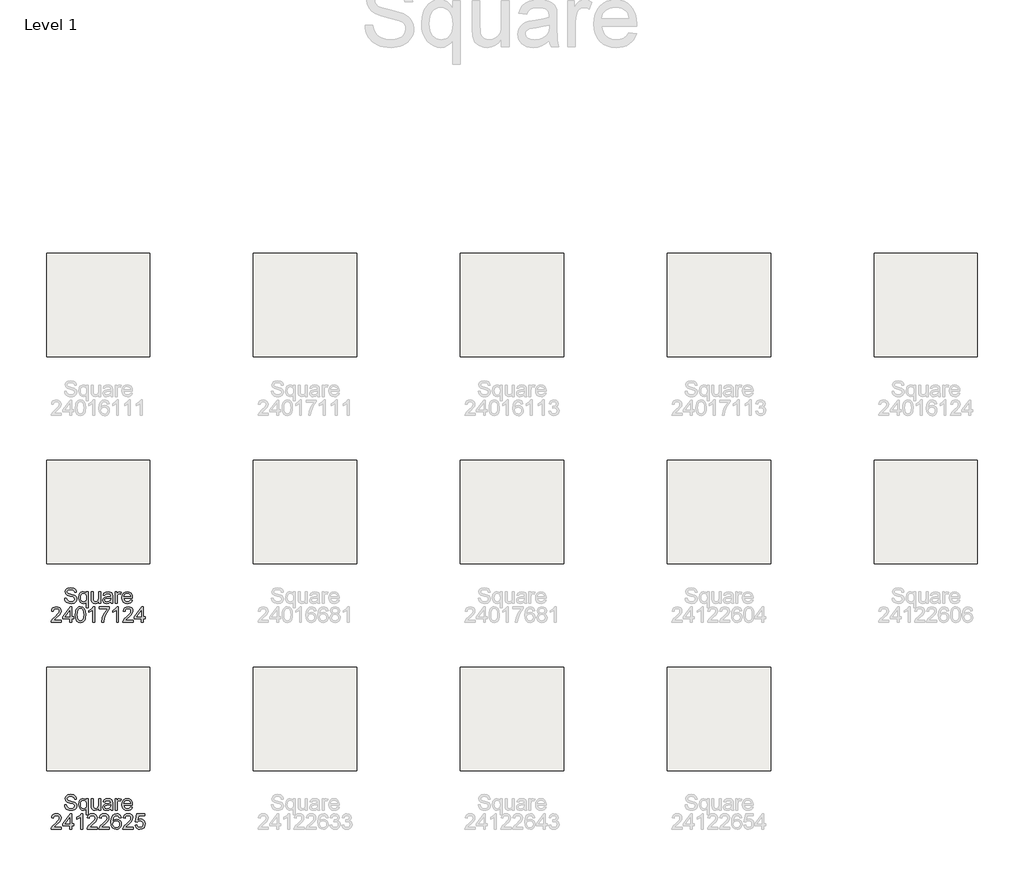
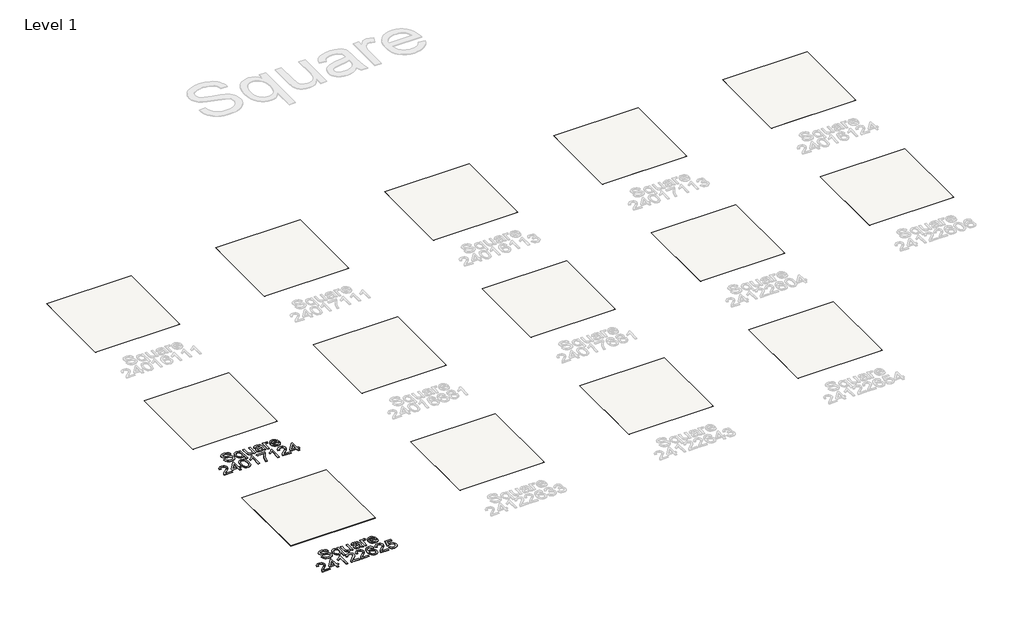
# One storey, part 1 of 6: 14 coverings, 2 proxies.
"""IFC4 building model written with IfcOpenShell, lengths in millimetres."""

import ifcopenshell
import ifcopenshell.guid

model = None  # the IFC model being written
_history = None  # IfcOwnerHistory: only IFC2X3 demands one
_inside = {}  # id of a spatial element -> (the spatial element, [elements in it])
_under = {}  # id of a project, library or spatial element -> (it, [spatial elements below it])
_declared = {}  # id of a project -> (the project, [libraries it declares])
_typed = {}  # id of a type object -> (the type object, [elements of that type])
_made_of = {}  # id of a material, layer set ... -> (it, [elements and type objects made of it])


def new_model(schema):
    """Start an empty IFC model of exactly this schema.

    Asked for "IFC4X3", IfcOpenShell would pick the latest addendum, in which some entities
    have other attributes; the version numbers below select the first issue.
    IFC2X3 requires an IfcOwnerHistory on every rooted entity: one is made here for all.
    """
    global model, _history
    if schema == "IFC4X3":
        model = ifcopenshell.file(schema_version=(4, 3, 0, 0))
    else:
        model = ifcopenshell.file(schema=schema)
    _inside.clear()
    _under.clear()
    _declared.clear()
    _typed.clear()
    _made_of.clear()
    _history = None
    if model.schema == "IFC2X3":
        org = make("IfcOrganization", Name="unknown")
        user = make(
            "IfcPersonAndOrganization",
            ThePerson=make("IfcPerson", FamilyName="unknown"),
            TheOrganization=org,
        )
        app = make(
            "IfcApplication",
            ApplicationDeveloper=org,
            Version="unknown",
            ApplicationFullName="unknown",
            ApplicationIdentifier="unknown",
        )
        _history = make(
            "IfcOwnerHistory",
            OwningUser=user,
            OwningApplication=app,
            ChangeAction="ADDED",
            CreationDate=0,
        )
    return model


def make(cls, **values):
    """One entity of the class cls with the attributes given. An attribute that is None is left unset."""
    return model.create_entity(
        cls, **{name: value for name, value in values.items() if value is not None}
    )


def rooted(cls, **values):
    """An entity with a GlobalId (a new one), such as an element, a storey or a relation."""
    return make(cls, GlobalId=ifcopenshell.guid.new(), OwnerHistory=_history, **values)


def si_unit(unit_type, name, prefix=None):
    """IfcSIUnit, for example si_unit("LENGTHUNIT", "METRE", prefix="MILLI")."""
    return make("IfcSIUnit", UnitType=unit_type, Prefix=prefix, Name=name)


def assignment(units):
    """IfcUnitAssignment: the units of a project."""
    return None if units is None else make("IfcUnitAssignment", Units=units)


def point(xyz):
    """IfcCartesianPoint."""
    return None if xyz is None else make("IfcCartesianPoint", Coordinates=xyz)


def direction(xyz):
    """IfcDirection."""
    return None if xyz is None else make("IfcDirection", DirectionRatios=xyz)


def frame(location, z_axis=None, x_axis=None):
    """IfcAxis2Placement3D, a coordinate frame: its origin and axes. An axis left out is left unset."""
    return make(
        "IfcAxis2Placement3D",
        Location=point(location),
        Axis=direction(z_axis),
        RefDirection=direction(x_axis),
    )


def origin():
    """The frame at (0, 0, 0) with its axes left unset."""
    return frame((0.0, 0.0, 0.0))


def origin_with_axes():
    """The frame at (0, 0, 0) with the z axis (0, 0, 1) and the x axis (1, 0, 0) written out."""
    return frame((0.0, 0.0, 0.0), z_axis=(0.0, 0.0, 1.0), x_axis=(1.0, 0.0, 0.0))


def place(relative_to, where):
    """IfcLocalPlacement: puts the frame where relative to a parent placement (None: the world)."""
    return make(
        "IfcLocalPlacement", PlacementRelTo=relative_to, RelativePlacement=where
    )


def context(
    kind, dimensions, precision=None, world=None, true_north=None, identifier=None
):
    """IfcGeometricRepresentationContext, for example the 3D "Model" context."""
    return make(
        "IfcGeometricRepresentationContext",
        ContextIdentifier=identifier,
        ContextType=kind,
        CoordinateSpaceDimension=dimensions,
        Precision=precision,
        WorldCoordinateSystem=world,
        TrueNorth=true_north,
    )


def project(units=None, contexts=None):
    """IfcProject with its units and contexts."""
    return rooted(
        "IfcProject",
        Name="project",
        RepresentationContexts=contexts,
        UnitsInContext=assignment(units),
    )


def spatial(cls, under=None, at=None, **own):
    """A site, building, storey or space (cls), placed at a placement, below another one or the project."""
    s = rooted(cls, ObjectPlacement=at, **own)
    if under is not None:
        _under.setdefault(under.id(), (under, []))[1].append(s)
    return s


def polyline(points):
    """IfcPolyline through the points."""
    return make("IfcPolyline", Points=[point(p) for p in points])


def outline(outer, holes=None, kind="AREA"):
    """IfcArbitraryClosedProfileDef: a profile drawn as a closed curve; with holes, ...WithVoids."""
    if holes is None:
        return make("IfcArbitraryClosedProfileDef", ProfileType=kind, OuterCurve=outer)
    return make(
        "IfcArbitraryProfileDefWithVoids",
        ProfileType=kind,
        OuterCurve=outer,
        InnerCurves=holes,
    )


def extrude(swept, where, along, depth):
    """IfcExtrudedAreaSolid: the profile swept, set in the frame where, extruded along a direction by depth."""
    return make(
        "IfcExtrudedAreaSolid",
        SweptArea=swept,
        Position=where,
        ExtrudedDirection=direction(along),
        Depth=depth,
    )


def shape(context_of_items, identifier, shape_type, items):
    """IfcShapeRepresentation: the items that make up one representation, for example the "Body"."""
    return make(
        "IfcShapeRepresentation",
        ContextOfItems=context_of_items,
        RepresentationIdentifier=identifier,
        RepresentationType=shape_type,
        Items=items,
    )


def made_of(thing, what):
    """Note that an element or type object is made of a material, layer set ...; save() writes the relation."""
    if what is not None:
        _made_of.setdefault(what.id(), (what, []))[1].append(thing)
    return thing


def element(
    cls,
    number,
    at=None,
    inside=None,
    cuts=None,
    type_object=None,
    material=None,
    context=None,
    identifier="Body",
    shape_type=None,
    held_by="IfcProductDefinitionShape",
    body=None,
    shapes=None,
    **own,
):
    """One element of the class cls, such as IfcWall. Its Tag is "e" and its number.

    at: its placement. inside: the storey or other place that contains it. cuts: it is an
    opening in that element (IfcRelVoidsElement). A single representation is given by context,
    identifier, shape_type and body (its items); several are given by shapes. held_by: the class
    of the entity that holds the representations. save() writes the other relations.
    """
    e = rooted(cls, Tag="e%d" % number, ObjectPlacement=at, **own)
    if body is not None:
        shapes = [shape(context, identifier, shape_type, body)]
    if shapes is not None:
        e.Representation = make(held_by, Representations=shapes)
    if inside is not None:
        _inside.setdefault(inside.id(), (inside, []))[1].append(e)
    if cuts is not None:
        rooted(
            "IfcRelVoidsElement", RelatingBuildingElement=cuts, RelatedOpeningElement=e
        )
    if type_object is not None:
        _typed.setdefault(type_object.id(), (type_object, []))[1].append(e)
    return made_of(e, material)


def aggregate(whole, parts):
    """IfcRelAggregates: a whole, such as a stair, and the parts it consists of."""
    return rooted("IfcRelAggregates", RelatingObject=whole, RelatedObjects=parts)


def save(model, path):
    """Write the relations noted so far, then the file.

    IfcRelAggregates (storeys below a building ...), IfcRelContainedInSpatialStructure (elements
    in a storey), IfcRelDefinesByType, IfcRelAssociatesMaterial and IfcRelDeclares: one each for
    every whole, place, type object, material and project.
    """
    for whole, parts in _under.values():
        aggregate(whole, parts)
    for where, things in _inside.values():
        rooted(
            "IfcRelContainedInSpatialStructure",
            RelatedElements=things,
            RelatingStructure=where,
        )
    for kind, things in _typed.values():
        rooted("IfcRelDefinesByType", RelatedObjects=things, RelatingType=kind)
    for what, things in _made_of.values():
        rooted("IfcRelAssociatesMaterial", RelatedObjects=things, RelatingMaterial=what)
    for by, libraries in _declared.values():
        rooted("IfcRelDeclares", RelatingContext=by, RelatedDefinitions=libraries)
    model.write(path)


model = new_model("IFC4")

# Units and contexts
model_context = context("Model", 3, world=origin())
ifc_project = project(units=[si_unit("LENGTHUNIT", "METRE", prefix="MILLI")], contexts=[model_context])

# Site, building, storey
site = spatial("IfcSite", under=ifc_project)
building = spatial("IfcBuilding", under=site)
storey = spatial("IfcBuildingStorey", under=building, Name="Level 1", Elevation=0.0)

# Proxies
placement = place(None, origin())
element("IfcBuildingElementProxy", 1, Name="150mm Arial", ObjectType="150mm Arial", at=placement, inside=storey, context=model_context, shape_type="SweptSolid", body=[
    extrude(outline(polyline([(-4760.0314438, -1311.1477573), (-4741.1958857, -1311.1477573), (-4735.1258328, -1330.0017096), (-4720.3001884, -1341.9210862), (-4697.7122339, -1346.4644288), (-4678.0305471, -1343.0247322), (-4665.3202242, -1333.5701649), (-4661.1447635, -1320.9334184), (-4664.2717605, -1309.1795886), (-4677.0740539, -1300.6263322), (-4704.4996567, -1293.4342392), (-4734.0221868, -1284.1452189), (-4750.0434477, -1270.1289148), (-4755.3225543, -1251.4037213), (-4753.6900779, -1240.37186), (-4748.7926489, -1230.0849597), (-4740.7590258, -1221.3661564), (-4729.7179674, -1215.0385861), (-4701.795724, -1209.9066322), (-4671.9972824, -1215.2777094), (-4660.5745464, -1221.9087823), (-4652.1316547, -1231.059847), (-4646.7881687, -1242.1606862), (-4644.6636501, -1254.6410828), (-4663.4992083, -1254.6410828), (-4666.9572991, -1243.4022879), (-4674.1677862, -1235.2904899), (-4685.4341723, -1230.3792653), (-4701.05996, -1228.7421904), (-4717.0536297, -1230.3608712), (-4728.0257103, -1235.2169135), (-4734.3716747, -1242.3630213), (-4736.4869961, -1250.8518983), (-4734.987877, -1258.0899766), (-4730.4905196, -1263.9117091), (-4699.7355848, -1274.4331342), (-4666.4054761, -1283.8877015), (-4655.6679203, -1290.7211095), (-4648.1769232, -1299.1548043), (-4643.7761348, -1309.0968152), (-4642.3092054, -1320.4551718), (-4643.996864, -1332.0664473), (-4649.05984, -1342.987944), (-4657.2911996, -1352.387329), (-4668.4840093, -1359.4322692), (-4681.9438918, -1363.8330575), (-4696.9764699, -1365.299987), (-4715.4303504, -1363.7180944), (-4730.6192783, -1358.9724167), (-4742.7179974, -1351.0445597), (-4751.9012517, -1339.9161293), (-4757.7965607, -1326.3596778), (-4760.0314438, -1311.1477573)])), origin_with_axes(), (0.0, 0.0, 1.0), 5.0),
    extrude(outline(polyline([(-4548.1314146, -1405.3255481), (-4548.1314146, -1347.8623804), (-4560.0875795, -1360.3335801), (-4576.42154, -1365.299987), (-4594.3281962, -1361.3774452), (-4609.5677078, -1349.6098199), (-4619.9971624, -1331.0087865), (-4623.4736472, -1306.5860206), (-4617.9554173, -1276.7507908), (-4611.1955856, -1265.1441138), (-4601.9525505, -1256.7380102), (-4590.9620759, -1251.6336475), (-4578.9599258, -1249.9321933), (-4561.4487428, -1255.2112999), (-4548.1314146, -1271.0486198), (-4548.1314146, -1252.2866381), (-4529.2958565, -1252.2866381), (-4529.2958565, -1405.3255481), (-4548.1314146, -1405.3255481)]), holes=[polyline([(-4604.6380891, -1307.6160902), (-4602.5181691, -1324.6122383), (-4596.1584091, -1336.7523442), (-4586.837199, -1344.0364077), (-4575.8329289, -1346.4644288), (-4565.2885112, -1344.1559693), (-4556.316789, -1337.2305908), (-4550.1777582, -1325.5871256), (-4548.1314146, -1309.1244063), (-4550.2881228, -1291.5258514), (-4556.7582474, -1278.9029004), (-4566.1346398, -1271.3015387), (-4577.0101512, -1268.7677515), (-4587.6833276, -1271.1267948), (-4596.5998675, -1278.2039246), (-4602.6285337, -1290.2750526), (-4604.6380891, -1307.6160902)])]), origin_with_axes(), (0.0, 0.0, 1.0), 5.0),
    extrude(outline(polyline([(-4430.4091762, -1362.9455422), (-4430.4091762, -1343.9260431), (-4445.1612442, -1359.956501), (-4464.4014725, -1365.299987), (-4482.1149906, -1361.5475906), (-4494.3286728, -1352.1298116), (-4499.9388732, -1338.2606604), (-4501.0425192, -1320.7494774), (-4501.0425192, -1252.2866381), (-4482.2069611, -1252.2866381), (-4482.2069611, -1311.8835213), (-4481.0665269, -1331.0869614), (-4473.6169165, -1342.3625446), (-4459.5822184, -1346.4644288), (-4443.8552631, -1342.2705741), (-4433.4625967, -1330.8478382), (-4430.4091762, -1309.8601703), (-4430.4091762, -1252.2866381), (-4411.573618, -1252.2866381), (-4411.573618, -1362.9455422), (-4430.4091762, -1362.9455422)])), origin_with_axes(), (0.0, 0.0, 1.0), 5.0),
    extrude(outline(polyline([(-4315.0413825, -1348.8188736), (-4333.3067235, -1361.5843788), (-4353.485051, -1365.299987), (-4369.2258018, -1363.0651039), (-4380.8370773, -1356.3604545), (-4387.9969806, -1346.1793203), (-4390.3836151, -1333.5149826), (-4386.7783715, -1318.6157618), (-4377.3054102, -1307.8000312), (-4364.1168406, -1301.6196136), (-4347.8196682, -1298.7869223), (-4315.1517471, -1292.3121992), (-4315.0413825, -1288.1183444), (-4316.3381665, -1279.7122408), (-4320.2285186, -1274.212405), (-4328.9289278, -1270.1289148), (-4341.0506395, -1268.7677515), (-4360.1069269, -1272.3913891), (-4369.1936122, -1285.2488648), (-4388.0291703, -1282.8944201), (-4379.8805841, -1264.5003203), (-4363.4730471, -1253.7213779), (-4338.6226184, -1249.9321933), (-4315.7955406, -1253.2799195), (-4302.9012766, -1261.6860231), (-4297.1255293, -1274.4699224), (-4296.2058243, -1290.9510358), (-4296.2058243, -1314.3851189), (-4295.2493311, -1347.1082223), (-4291.4969348, -1362.9455422), (-4310.3324929, -1362.9455422), (-4315.0413825, -1348.8188736)]), holes=[polyline([(-4315.0413825, -1311.1477573), (-4345.4284353, -1316.9235046), (-4361.6336372, -1319.9769252), (-4368.972883, -1324.9433321), (-4371.5480569, -1332.1906074), (-4365.9378565, -1342.3809387), (-4349.4751372, -1346.4644288), (-4330.4188499, -1341.9578744), (-4318.1315912, -1331.0501732), (-4315.1517471, -1316.4820462), (-4315.0413825, -1311.1477573)])]), origin_with_axes(), (0.0, 0.0, 1.0), 5.0),
    extrude(outline(polyline([(-4270.3069319, -1362.9455422), (-4270.3069319, -1252.2866381), (-4253.8258185, -1252.2866381), (-4253.8258185, -1268.6573869), (-4242.127171, -1253.5742251), (-4230.3549472, -1249.9321933), (-4211.4458126, -1255.7447288), (-4217.7365947, -1272.6305124), (-4230.9803466, -1268.7677515), (-4241.6305303, -1272.4833596), (-4248.4179531, -1282.7840555), (-4251.4713737, -1304.7833988), (-4251.4713737, -1362.9455422), (-4270.3069319, -1362.9455422)])), origin_with_axes(), (0.0, 0.0, 1.0), 5.0),
    extrude(outline(polyline([(-4122.1976406, -1329.9833155), (-4103.7299644, -1332.3377602), (-4110.38403, -1346.2528967), (-4121.0020241, -1356.6547601), (-4135.3448234, -1363.1386803), (-4153.1733046, -1365.299987), (-4175.2738155, -1361.5705833), (-4192.2791607, -1350.3823721), (-4203.1224825, -1332.4619204), (-4206.7369231, -1308.5357951), (-4203.0856943, -1283.804928), (-4192.1320079, -1265.3096607), (-4175.3565889, -1253.7765602), (-4154.2401624, -1249.9321933), (-4133.7813249, -1253.7673631), (-4117.4335688, -1265.2728725), (-4106.7144071, -1283.7313516), (-4103.1413532, -1308.4254305), (-4103.2517178, -1313.5022021), (-4187.9013649, -1313.5022021), (-4184.6410108, -1327.6012795), (-4177.0672402, -1337.9663548), (-4166.1365464, -1344.3399103), (-4152.8054226, -1346.4644288), (-4134.3377464, -1342.5280915), (-4122.1976406, -1329.9833155)]), holes=[polyline([(-4187.9013649, -1294.6666439), (-4121.9769114, -1294.6666439), (-4124.5244942, -1284.715436), (-4129.5184923, -1277.5969193), (-4140.4997699, -1270.9750434), (-4154.3137388, -1268.7677515), (-4167.0102661, -1270.5289865), (-4177.5086986, -1275.8126917), (-4184.8065577, -1284.0486498), (-4187.9013649, -1294.6666439)])]), origin_with_axes(), (0.0, 0.0, 1.0), 5.0),
    extrude(outline(polyline([(-4789.4620034, -1527.0722108), (-4789.4620034, -1545.907769), (-4888.3486838, -1545.907769), (-4886.3253328, -1532.9215346), (-4874.8842027, -1512.9271481), (-4851.3029668, -1491.0933517), (-4818.7821985, -1459.7130175), (-4812.6845544, -1448.8972869), (-4810.6520064, -1438.3758618), (-4812.5695913, -1428.9442872), (-4818.322346, -1421.1038021), (-4827.1653094, -1415.820097), (-4838.3535206, -1414.0588619), (-4850.1027518, -1415.7787103), (-4859.2308238, -1420.9382552), (-4865.1215343, -1429.1328267), (-4867.1586808, -1439.9577544), (-4885.994239, -1437.6033096), (-4881.4279037, -1419.3839538), (-4871.5548707, -1406.0758226), (-4856.8901746, -1397.9364335), (-4837.9488504, -1395.2233038), (-4818.8695704, -1398.2399361), (-4804.2324656, -1407.2898332), (-4794.9204526, -1420.8094965), (-4791.8164482, -1437.2354276), (-4795.1641744, -1455.0960985), (-4806.2926047, -1473.5637746), (-4833.2767491, -1499.3706966), (-4854.9449986, -1517.4888849), (-4863.4430727, -1527.0722108), (-4789.4620034, -1527.0722108)])), origin_with_axes(), (0.0, 0.0, 1.0), 5.0),
    extrude(outline(polyline([(-4709.4108813, -1545.907769), (-4709.4108813, -1510.5910975), (-4777.6897796, -1510.5910975), (-4777.6897796, -1491.7555393), (-4704.7019918, -1397.5777485), (-4690.5753231, -1397.5777485), (-4690.5753231, -1491.7555393), (-4671.739765, -1491.7555393), (-4671.739765, -1510.5910975), (-4690.5753231, -1510.5910975), (-4690.5753231, -1545.907769), (-4709.4108813, -1545.907769)]), holes=[polyline([(-4709.4108813, -1491.7555393), (-4709.4108813, -1433.5566077), (-4754.5132139, -1491.7555393), (-4709.4108813, -1491.7555393)])]), origin_with_axes(), (0.0, 0.0, 1.0), 5.0),
    extrude(outline(polyline([(-4655.2586516, -1471.779547), (-4653.8744956, -1447.6602837), (-4649.7220276, -1428.4246538), (-4642.8426343, -1413.7783519), (-4633.2777024, -1403.4270723), (-4620.9582541, -1397.2742459), (-4605.8153115, -1395.2233038), (-4583.8159681, -1400.0793461), (-4568.6224417, -1414.077256), (-4559.7932739, -1436.3709049), (-4556.3719713, -1471.779547), (-4557.7423317, -1495.7608545), (-4561.853413, -1514.9504991), (-4568.6914196, -1529.6105966), (-4578.2425559, -1540.003263), (-4590.5895954, -1546.1974761), (-4605.8153115, -1548.2622138), (-4625.3866336, -1544.6753643), (-4640.2490662, -1533.914816), (-4651.5062553, -1508.4297907), (-4655.2586516, -1471.779547)]), holes=[polyline([(-4636.4230935, -1471.7427588), (-4634.2158015, -1501.371055), (-4627.5939256, -1518.5189545), (-4617.7346881, -1526.6997303), (-4605.8153115, -1529.4266556), (-4593.8959348, -1526.6905333), (-4584.0366973, -1518.4821663), (-4577.4148214, -1501.3250697), (-4575.2075295, -1471.7427588), (-4577.341245, -1442.7812487), (-4583.7423917, -1425.499992), (-4593.5832351, -1416.9191444), (-4606.0360407, -1414.0588619), (-4617.8266586, -1416.5788536), (-4627.29962, -1424.1388286), (-4634.1422251, -1442.4961402), (-4636.4230935, -1471.7427588)])]), origin_with_axes(), (0.0, 0.0, 1.0), 5.0),
    extrude(outline(polyline([(-4469.2575148, -1545.907769), (-4488.093073, -1545.907769), (-4488.093073, -1428.4798361), (-4505.9353498, -1441.1901591), (-4525.7641893, -1450.6999086), (-4525.7641893, -1432.8944201), (-4498.1546456, -1415.2728725), (-4481.3976207, -1395.2233038), (-4469.2575148, -1395.2233038), (-4469.2575148, -1545.907769)])), origin_with_axes(), (0.0, 0.0, 1.0), 5.0),
    extrude(outline(polyline([(-4424.5230642, -1416.4133067), (-4424.5230642, -1397.5777485), (-4325.6363839, -1397.5777485), (-4325.6363839, -1412.8080631), (-4353.6873861, -1453.3302649), (-4365.9976373, -1478.7922975), (-4375.1533005, -1504.9625029), (-4382.1430584, -1545.907769), (-4400.9786165, -1545.907769), (-4393.4922179, -1503.4173986), (-4384.7780132, -1478.9578444), (-4372.9460085, -1455.3904041), (-4344.4719421, -1416.4133067), (-4424.5230642, -1416.4133067)])), origin_with_axes(), (0.0, 0.0, 1.0), 5.0),
    extrude(outline(polyline([(-4238.5219275, -1545.907769), (-4257.3574856, -1545.907769), (-4257.3574856, -1428.4798361), (-4275.1997624, -1441.1901591), (-4295.0286019, -1450.6999086), (-4295.0286019, -1432.8944201), (-4267.4190582, -1415.2728725), (-4250.6620333, -1395.2233038), (-4238.5219275, -1395.2233038), (-4238.5219275, -1545.907769)])), origin_with_axes(), (0.0, 0.0, 1.0), 5.0),
    extrude(outline(polyline([(-4097.2552413, -1527.0722108), (-4097.2552413, -1545.907769), (-4196.1419216, -1545.907769), (-4194.1185707, -1532.9215346), (-4182.6774406, -1512.9271481), (-4159.0962047, -1491.0933517), (-4126.5754363, -1459.7130175), (-4120.4777923, -1448.8972869), (-4118.4452442, -1438.3758618), (-4120.3628291, -1428.9442872), (-4126.1155838, -1421.1038021), (-4134.9585473, -1415.820097), (-4146.1467585, -1414.0588619), (-4157.8959897, -1415.7787103), (-4167.0240617, -1420.9382552), (-4172.9147722, -1429.1328267), (-4174.9519187, -1439.9577544), (-4193.7874769, -1437.6033096), (-4189.2211416, -1419.3839538), (-4179.3481085, -1406.0758226), (-4164.6834125, -1397.9364335), (-4145.7420883, -1395.2233038), (-4126.6628083, -1398.2399361), (-4112.0257034, -1407.2898332), (-4102.7136904, -1420.8094965), (-4099.6096861, -1437.2354276), (-4102.9574123, -1455.0960985), (-4114.0858426, -1473.5637746), (-4141.069987, -1499.3706966), (-4162.7382365, -1517.4888849), (-4171.2363106, -1527.0722108), (-4097.2552413, -1527.0722108)])), origin_with_axes(), (0.0, 0.0, 1.0), 5.0),
    extrude(outline(polyline([(-4017.2041192, -1545.907769), (-4017.2041192, -1510.5910975), (-4085.4830175, -1510.5910975), (-4085.4830175, -1491.7555393), (-4012.4952296, -1397.5777485), (-3998.368561, -1397.5777485), (-3998.368561, -1491.7555393), (-3979.5330029, -1491.7555393), (-3979.5330029, -1510.5910975), (-3998.368561, -1510.5910975), (-3998.368561, -1545.907769), (-4017.2041192, -1545.907769)]), holes=[polyline([(-4017.2041192, -1491.7555393), (-4017.2041192, -1433.5566077), (-4062.3064518, -1491.7555393), (-4017.2041192, -1491.7555393)])]), origin_with_axes(), (0.0, 0.0, 1.0), 5.0),
])
element("IfcBuildingElementProxy", 2, Name="150mm Arial", ObjectType="150mm Arial", at=placement, inside=storey, context=model_context, shape_type="SweptSolid", body=[
    extrude(outline(polyline([(-4760.0314438, -3311.1477573), (-4741.1958857, -3311.1477573), (-4735.1258328, -3330.0017096), (-4720.3001884, -3341.9210862), (-4697.7122339, -3346.4644288), (-4678.0305471, -3343.0247322), (-4665.3202242, -3333.5701649), (-4661.1447635, -3320.9334184), (-4664.2717605, -3309.1795886), (-4677.0740539, -3300.6263322), (-4704.4996567, -3293.4342392), (-4734.0221868, -3284.1452189), (-4750.0434477, -3270.1289148), (-4755.3225543, -3251.4037213), (-4753.6900779, -3240.37186), (-4748.7926489, -3230.0849597), (-4740.7590258, -3221.3661564), (-4729.7179674, -3215.0385861), (-4701.795724, -3209.9066322), (-4671.9972824, -3215.2777094), (-4660.5745464, -3221.9087823), (-4652.1316547, -3231.059847), (-4646.7881687, -3242.1606862), (-4644.6636501, -3254.6410828), (-4663.4992083, -3254.6410828), (-4666.9572991, -3243.4022879), (-4674.1677862, -3235.2904899), (-4685.4341723, -3230.3792653), (-4701.05996, -3228.7421904), (-4717.0536297, -3230.3608712), (-4728.0257103, -3235.2169135), (-4734.3716747, -3242.3630213), (-4736.4869961, -3250.8518983), (-4734.987877, -3258.0899766), (-4730.4905196, -3263.9117091), (-4699.7355848, -3274.4331342), (-4666.4054761, -3283.8877015), (-4655.6679203, -3290.7211095), (-4648.1769232, -3299.1548043), (-4643.7761348, -3309.0968152), (-4642.3092054, -3320.4551718), (-4643.996864, -3332.0664473), (-4649.05984, -3342.987944), (-4657.2911996, -3352.387329), (-4668.4840093, -3359.4322692), (-4681.9438918, -3363.8330575), (-4696.9764699, -3365.299987), (-4715.4303504, -3363.7180944), (-4730.6192783, -3358.9724167), (-4742.7179974, -3351.0445597), (-4751.9012517, -3339.9161293), (-4757.7965607, -3326.3596778), (-4760.0314438, -3311.1477573)])), origin_with_axes(), (0.0, 0.0, 1.0), 5.0),
    extrude(outline(polyline([(-4548.1314146, -3405.3255481), (-4548.1314146, -3347.8623804), (-4560.0875795, -3360.3335801), (-4576.42154, -3365.299987), (-4594.3281962, -3361.3774452), (-4609.5677078, -3349.6098199), (-4619.9971624, -3331.0087865), (-4623.4736472, -3306.5860206), (-4617.9554173, -3276.7507908), (-4611.1955856, -3265.1441138), (-4601.9525505, -3256.7380102), (-4590.9620759, -3251.6336475), (-4578.9599258, -3249.9321933), (-4561.4487428, -3255.2112999), (-4548.1314146, -3271.0486198), (-4548.1314146, -3252.2866381), (-4529.2958565, -3252.2866381), (-4529.2958565, -3405.3255481), (-4548.1314146, -3405.3255481)]), holes=[polyline([(-4604.6380891, -3307.6160902), (-4602.5181691, -3324.6122383), (-4596.1584091, -3336.7523442), (-4586.837199, -3344.0364077), (-4575.8329289, -3346.4644288), (-4565.2885112, -3344.1559693), (-4556.316789, -3337.2305908), (-4550.1777582, -3325.5871256), (-4548.1314146, -3309.1244063), (-4550.2881228, -3291.5258514), (-4556.7582474, -3278.9029004), (-4566.1346398, -3271.3015387), (-4577.0101512, -3268.7677515), (-4587.6833276, -3271.1267948), (-4596.5998675, -3278.2039246), (-4602.6285337, -3290.2750526), (-4604.6380891, -3307.6160902)])]), origin_with_axes(), (0.0, 0.0, 1.0), 5.0),
    extrude(outline(polyline([(-4430.4091762, -3362.9455422), (-4430.4091762, -3343.9260431), (-4445.1612442, -3359.956501), (-4464.4014725, -3365.299987), (-4482.1149906, -3361.5475906), (-4494.3286728, -3352.1298116), (-4499.9388732, -3338.2606604), (-4501.0425192, -3320.7494774), (-4501.0425192, -3252.2866381), (-4482.2069611, -3252.2866381), (-4482.2069611, -3311.8835213), (-4481.0665269, -3331.0869614), (-4473.6169165, -3342.3625446), (-4459.5822184, -3346.4644288), (-4443.8552631, -3342.2705741), (-4433.4625967, -3330.8478382), (-4430.4091762, -3309.8601703), (-4430.4091762, -3252.2866381), (-4411.573618, -3252.2866381), (-4411.573618, -3362.9455422), (-4430.4091762, -3362.9455422)])), origin_with_axes(), (0.0, 0.0, 1.0), 5.0),
    extrude(outline(polyline([(-4315.0413825, -3348.8188736), (-4333.3067235, -3361.5843788), (-4353.485051, -3365.299987), (-4369.2258018, -3363.0651039), (-4380.8370773, -3356.3604545), (-4387.9969806, -3346.1793203), (-4390.3836151, -3333.5149826), (-4386.7783715, -3318.6157618), (-4377.3054102, -3307.8000312), (-4364.1168406, -3301.6196136), (-4347.8196682, -3298.7869223), (-4315.1517471, -3292.3121992), (-4315.0413825, -3288.1183444), (-4316.3381665, -3279.7122408), (-4320.2285186, -3274.212405), (-4328.9289278, -3270.1289148), (-4341.0506395, -3268.7677515), (-4360.1069269, -3272.3913891), (-4369.1936122, -3285.2488648), (-4388.0291703, -3282.8944201), (-4379.8805841, -3264.5003203), (-4363.4730471, -3253.7213779), (-4338.6226184, -3249.9321933), (-4315.7955406, -3253.2799195), (-4302.9012766, -3261.6860231), (-4297.1255293, -3274.4699224), (-4296.2058243, -3290.9510358), (-4296.2058243, -3314.3851189), (-4295.2493311, -3347.1082223), (-4291.4969348, -3362.9455422), (-4310.3324929, -3362.9455422), (-4315.0413825, -3348.8188736)]), holes=[polyline([(-4315.0413825, -3311.1477573), (-4345.4284353, -3316.9235046), (-4361.6336372, -3319.9769252), (-4368.972883, -3324.9433321), (-4371.5480569, -3332.1906074), (-4365.9378565, -3342.3809387), (-4349.4751372, -3346.4644288), (-4330.4188499, -3341.9578744), (-4318.1315912, -3331.0501732), (-4315.1517471, -3316.4820462), (-4315.0413825, -3311.1477573)])]), origin_with_axes(), (0.0, 0.0, 1.0), 5.0),
    extrude(outline(polyline([(-4270.3069319, -3362.9455422), (-4270.3069319, -3252.2866381), (-4253.8258185, -3252.2866381), (-4253.8258185, -3268.6573869), (-4242.127171, -3253.5742251), (-4230.3549472, -3249.9321933), (-4211.4458126, -3255.7447288), (-4217.7365947, -3272.6305124), (-4230.9803466, -3268.7677515), (-4241.6305303, -3272.4833596), (-4248.4179531, -3282.7840555), (-4251.4713737, -3304.7833988), (-4251.4713737, -3362.9455422), (-4270.3069319, -3362.9455422)])), origin_with_axes(), (0.0, 0.0, 1.0), 5.0),
    extrude(outline(polyline([(-4122.1976406, -3329.9833155), (-4103.7299644, -3332.3377602), (-4110.38403, -3346.2528967), (-4121.0020241, -3356.6547601), (-4135.3448234, -3363.1386803), (-4153.1733046, -3365.299987), (-4175.2738155, -3361.5705833), (-4192.2791607, -3350.3823721), (-4203.1224825, -3332.4619204), (-4206.7369231, -3308.5357951), (-4203.0856943, -3283.804928), (-4192.1320079, -3265.3096607), (-4175.3565889, -3253.7765602), (-4154.2401624, -3249.9321933), (-4133.7813249, -3253.7673631), (-4117.4335688, -3265.2728725), (-4106.7144071, -3283.7313516), (-4103.1413532, -3308.4254305), (-4103.2517178, -3313.5022021), (-4187.9013649, -3313.5022021), (-4184.6410108, -3327.6012795), (-4177.0672402, -3337.9663548), (-4166.1365464, -3344.3399103), (-4152.8054226, -3346.4644288), (-4134.3377464, -3342.5280915), (-4122.1976406, -3329.9833155)]), holes=[polyline([(-4187.9013649, -3294.6666439), (-4121.9769114, -3294.6666439), (-4124.5244942, -3284.715436), (-4129.5184923, -3277.5969193), (-4140.4997699, -3270.9750434), (-4154.3137388, -3268.7677515), (-4167.0102661, -3270.5289865), (-4177.5086986, -3275.8126917), (-4184.8065577, -3284.0486498), (-4187.9013649, -3294.6666439)])]), origin_with_axes(), (0.0, 0.0, 1.0), 5.0),
    extrude(outline(polyline([(-4789.4620034, -3527.0722108), (-4789.4620034, -3545.907769), (-4888.3486838, -3545.907769), (-4886.3253328, -3532.9215346), (-4874.8842027, -3512.9271481), (-4851.3029668, -3491.0933517), (-4818.7821985, -3459.7130175), (-4812.6845544, -3448.8972869), (-4810.6520064, -3438.3758618), (-4812.5695913, -3428.9442872), (-4818.322346, -3421.1038021), (-4827.1653094, -3415.820097), (-4838.3535206, -3414.0588619), (-4850.1027518, -3415.7787103), (-4859.2308238, -3420.9382552), (-4865.1215343, -3429.1328267), (-4867.1586808, -3439.9577544), (-4885.994239, -3437.6033096), (-4881.4279037, -3419.3839538), (-4871.5548707, -3406.0758226), (-4856.8901746, -3397.9364335), (-4837.9488504, -3395.2233038), (-4818.8695704, -3398.2399361), (-4804.2324656, -3407.2898332), (-4794.9204526, -3420.8094965), (-4791.8164482, -3437.2354276), (-4795.1641744, -3455.0960985), (-4806.2926047, -3473.5637746), (-4833.2767491, -3499.3706966), (-4854.9449986, -3517.4888849), (-4863.4430727, -3527.0722108), (-4789.4620034, -3527.0722108)])), origin_with_axes(), (0.0, 0.0, 1.0), 5.0),
    extrude(outline(polyline([(-4709.4108813, -3545.907769), (-4709.4108813, -3510.5910975), (-4777.6897796, -3510.5910975), (-4777.6897796, -3491.7555393), (-4704.7019918, -3397.5777485), (-4690.5753231, -3397.5777485), (-4690.5753231, -3491.7555393), (-4671.739765, -3491.7555393), (-4671.739765, -3510.5910975), (-4690.5753231, -3510.5910975), (-4690.5753231, -3545.907769), (-4709.4108813, -3545.907769)]), holes=[polyline([(-4709.4108813, -3491.7555393), (-4709.4108813, -3433.5566077), (-4754.5132139, -3491.7555393), (-4709.4108813, -3491.7555393)])]), origin_with_axes(), (0.0, 0.0, 1.0), 5.0),
    extrude(outline(polyline([(-4584.6253085, -3545.907769), (-4603.4608667, -3545.907769), (-4603.4608667, -3428.4798361), (-4621.3031435, -3441.1901591), (-4641.131983, -3450.6999086), (-4641.131983, -3432.8944201), (-4613.5224393, -3415.2728725), (-4596.7654144, -3395.2233038), (-4584.6253085, -3395.2233038), (-4584.6253085, -3545.907769)])), origin_with_axes(), (0.0, 0.0, 1.0), 5.0),
    extrude(outline(polyline([(-4443.3586224, -3527.0722108), (-4443.3586224, -3545.907769), (-4542.2453027, -3545.907769), (-4540.2219517, -3532.9215346), (-4528.7808217, -3512.9271481), (-4505.1995858, -3491.0933517), (-4472.6788174, -3459.7130175), (-4466.5811733, -3448.8972869), (-4464.5486253, -3438.3758618), (-4466.4662102, -3428.9442872), (-4472.2189649, -3421.1038021), (-4481.0619284, -3415.820097), (-4492.2501395, -3414.0588619), (-4503.9993708, -3415.7787103), (-4513.1274428, -3420.9382552), (-4519.0181532, -3429.1328267), (-4521.0552998, -3439.9577544), (-4539.8908579, -3437.6033096), (-4535.3245227, -3419.3839538), (-4525.4514896, -3406.0758226), (-4510.7867936, -3397.9364335), (-4491.8454694, -3395.2233038), (-4472.7661894, -3398.2399361), (-4458.1290845, -3407.2898332), (-4448.8170715, -3420.8094965), (-4445.7130672, -3437.2354276), (-4449.0607933, -3455.0960985), (-4460.1892237, -3473.5637746), (-4487.173368, -3499.3706966), (-4508.8416175, -3517.4888849), (-4517.3396916, -3527.0722108), (-4443.3586224, -3527.0722108)])), origin_with_axes(), (0.0, 0.0, 1.0), 5.0),
    extrude(outline(polyline([(-4327.9908287, -3527.0722108), (-4327.9908287, -3545.907769), (-4426.877509, -3545.907769), (-4424.854158, -3532.9215346), (-4413.413028, -3512.9271481), (-4389.8317921, -3491.0933517), (-4357.3110237, -3459.7130175), (-4351.2133796, -3448.8972869), (-4349.1808316, -3438.3758618), (-4351.0984165, -3428.9442872), (-4356.8511712, -3421.1038021), (-4365.6941347, -3415.820097), (-4376.8823459, -3414.0588619), (-4388.6315771, -3415.7787103), (-4397.7596491, -3420.9382552), (-4403.6503595, -3429.1328267), (-4405.6875061, -3439.9577544), (-4424.5230642, -3437.6033096), (-4419.956729, -3419.3839538), (-4410.0836959, -3406.0758226), (-4395.4189999, -3397.9364335), (-4376.4776757, -3395.2233038), (-4357.3983957, -3398.2399361), (-4342.7612908, -3407.2898332), (-4333.4492778, -3420.8094965), (-4330.3452735, -3437.2354276), (-4333.6929996, -3455.0960985), (-4344.82143, -3473.5637746), (-4371.8055743, -3499.3706966), (-4393.4738238, -3517.4888849), (-4401.9718979, -3527.0722108), (-4327.9908287, -3527.0722108)])), origin_with_axes(), (0.0, 0.0, 1.0), 5.0),
    extrude(outline(polyline([(-4212.623035, -3435.2488648), (-4231.4585932, -3437.6033096), (-4238.5955039, -3421.8947484), (-4247.1395632, -3416.0178336), (-4257.4678502, -3414.0588619), (-4274.4639984, -3418.6205987), (-4287.3214741, -3435.7455055), (-4291.2256218, -3449.7756051), (-4292.6741572, -3469.3147376), (-4276.0642851, -3454.2867581), (-4255.4812875, -3449.3755335), (-4238.0804691, -3452.7324567), (-4223.4755539, -3462.8032263), (-4213.5703312, -3478.1898907), (-4210.2685902, -3497.4944984), (-4211.8228917, -3510.9819721), (-4216.485796, -3523.4853614), (-4223.871027, -3534.0895599), (-4233.5923087, -3541.8794612), (-4245.2081827, -3546.6665256), (-4258.2771906, -3548.2622138), (-4279.646536, -3544.0315708), (-4296.6656768, -3531.339642), (-4307.7987057, -3508.9356285), (-4311.5097153, -3475.5687315), (-4307.389437, -3438.0539651), (-4295.0286019, -3412.4033929), (-4278.1520154, -3399.5183261), (-4256.2906278, -3395.2233038), (-4239.7635292, -3397.8812512), (-4226.5289744, -3405.8550934), (-4217.2583482, -3418.5194311), (-4212.623035, -3435.2488648)]), holes=[polyline([(-4292.6741572, -3497.2001928), (-4288.3147555, -3513.5157593), (-4276.7264727, -3525.3615596), (-4259.7487186, -3529.4266556), (-4247.3189057, -3527.3205312), (-4237.5470402, -3521.0021579), (-4231.2148713, -3511.0693441), (-4229.1041484, -3498.1198978), (-4231.1872802, -3485.6900849), (-4237.4366756, -3476.212525), (-4247.374088, -3470.21145), (-4260.5212708, -3468.2110916), (-4272.9326896, -3470.21145), (-4283.3115604, -3476.212525), (-4290.333508, -3485.4601587), (-4292.6741572, -3497.2001928)])]), origin_with_axes(), (0.0, 0.0, 1.0), 5.0),
    extrude(outline(polyline([(-4097.2552413, -3527.0722108), (-4097.2552413, -3545.907769), (-4196.1419216, -3545.907769), (-4194.1185707, -3532.9215346), (-4182.6774406, -3512.9271481), (-4159.0962047, -3491.0933517), (-4126.5754363, -3459.7130175), (-4120.4777923, -3448.8972869), (-4118.4452442, -3438.3758618), (-4120.3628291, -3428.9442872), (-4126.1155838, -3421.1038021), (-4134.9585473, -3415.820097), (-4146.1467585, -3414.0588619), (-4157.8959897, -3415.7787103), (-4167.0240617, -3420.9382552), (-4172.9147722, -3429.1328267), (-4174.9519187, -3439.9577544), (-4193.7874769, -3437.6033096), (-4189.2211416, -3419.3839538), (-4179.3481085, -3406.0758226), (-4164.6834125, -3397.9364335), (-4145.7420883, -3395.2233038), (-4126.6628083, -3398.2399361), (-4112.0257034, -3407.2898332), (-4102.7136904, -3420.8094965), (-4099.6096861, -3437.2354276), (-4102.9574123, -3455.0960985), (-4114.0858426, -3473.5637746), (-4141.069987, -3499.3706966), (-4162.7382365, -3517.4888849), (-4171.2363106, -3527.0722108), (-4097.2552413, -3527.0722108)])), origin_with_axes(), (0.0, 0.0, 1.0), 5.0),
    extrude(outline(polyline([(-4078.4196832, -3505.8822079), (-4059.584125, -3503.5277632), (-4056.1260343, -3514.835536), (-4050.0927695, -3522.9335384), (-4041.511922, -3527.8033763), (-4030.4110828, -3529.4266556), (-4016.9098136, -3527.1687799), (-4006.7930587, -3520.3951526), (-4000.4746854, -3509.8875231), (-3998.368561, -3496.4276406), (-4000.3413282, -3483.7541059), (-4006.2596298, -3474.0604153), (-4016.1694511, -3467.907589), (-4030.1167772, -3465.8566468), (-4046.6530729, -3469.1307966), (-4057.2296802, -3477.6288707), (-4076.0652384, -3475.2744259), (-4059.584125, -3397.5777485), (-3986.5963372, -3397.5777485), (-3986.5963372, -3416.4133067), (-4044.3538104, -3416.4133067), (-4052.4104261, -3457.9103958), (-4038.9551421, -3449.7434155), (-4024.8560647, -3447.0210887), (-4007.2575097, -3450.396406), (-3992.647996, -3460.5223579), (-3982.8117512, -3475.9550076), (-3979.5330029, -3495.2504183), (-3982.4852559, -3514.0859764), (-3991.3420149, -3530.1992078), (-4008.3013749, -3543.7464623), (-4030.4846592, -3548.2622138), (-4048.984525, -3545.3605445), (-4063.7227975, -3536.6555368), (-4073.8257568, -3523.1588661), (-4078.4196832, -3505.8822079)])), origin_with_axes(), (0.0, 0.0, 1.0), 5.0),
])

# Coverings
element("IfcCovering", 3, ObjectType="TARKETT - Square - 24016111", at=placement, inside=storey, context=model_context, shape_type="SweptSolid", body=[
    extrude(outline(polyline([(-3933.9408433, 2020.5816168), (-3933.9408433, 1020.5816168), (-4933.9408433, 1020.5816168), (-4933.9408433, 2020.5816168), (-3933.9408433, 2020.5816168)])), frame((0.0, 0.0, -2.0), z_axis=(0.0, 0.0, 1.0), x_axis=(1.0, 0.0, 0.0)), (0.0, 0.0, 1.0), 2.0),
])
element("IfcCovering", 4, ObjectType="TARKETT - Square - 24017111", at=placement, inside=storey, context=model_context, shape_type="SweptSolid", body=[
    extrude(outline(polyline([(-1933.9408433, 2020.5816168), (-1933.9408433, 1020.5816168), (-2933.9408433, 1020.5816168), (-2933.9408433, 2020.5816168), (-1933.9408433, 2020.5816168)])), frame((0.0, 0.0, -2.0), z_axis=(0.0, 0.0, 1.0), x_axis=(1.0, 0.0, 0.0)), (0.0, 0.0, 1.0), 2.0),
])
element("IfcCovering", 5, ObjectType="TARKETT - Square - 24016113", at=placement, inside=storey, context=model_context, shape_type="SweptSolid", body=[
    extrude(outline(polyline([(66.0591567, 2020.5816168), (66.0591567, 1020.5816168), (-933.9408433, 1020.5816168), (-933.9408433, 2020.5816168), (66.0591567, 2020.5816168)])), frame((0.0, 0.0, -2.0), z_axis=(0.0, 0.0, 1.0), x_axis=(1.0, 0.0, 0.0)), (0.0, 0.0, 1.0), 2.0),
])
element("IfcCovering", 6, ObjectType="TARKETT - Square - 24017113", at=placement, inside=storey, context=model_context, shape_type="SweptSolid", body=[
    extrude(outline(polyline([(2066.0591567, 2020.5816168), (2066.0591567, 1020.5816168), (1066.0591567, 1020.5816168), (1066.0591567, 2020.5816168), (2066.0591567, 2020.5816168)])), frame((0.0, 0.0, -2.0), z_axis=(0.0, 0.0, 1.0), x_axis=(1.0, 0.0, 0.0)), (0.0, 0.0, 1.0), 2.0),
])
element("IfcCovering", 7, ObjectType="TARKETT - Square - 24016124", at=placement, inside=storey, context=model_context, shape_type="SweptSolid", body=[
    extrude(outline(polyline([(4066.0591567, 2020.5816168), (4066.0591567, 1020.5816168), (3066.0591567, 1020.5816168), (3066.0591567, 2020.5816168), (4066.0591567, 2020.5816168)])), frame((0.0, 0.0, -2.0), z_axis=(0.0, 0.0, 1.0), x_axis=(1.0, 0.0, 0.0)), (0.0, 0.0, 1.0), 2.0),
])
element("IfcCovering", 8, ObjectType="TARKETT - Square - 24017124", at=placement, inside=storey, context=model_context, shape_type="SweptSolid", body=[
    extrude(outline(polyline([(-3933.9408433, 20.5816168), (-3933.9408433, -979.4183832), (-4933.9408433, -979.4183832), (-4933.9408433, 20.5816168), (-3933.9408433, 20.5816168)])), frame((0.0, 0.0, -2.0), z_axis=(0.0, 0.0, 1.0), x_axis=(1.0, 0.0, 0.0)), (0.0, 0.0, 1.0), 2.0),
])
element("IfcCovering", 9, ObjectType="TARKETT - Square - 24016681", at=placement, inside=storey, context=model_context, shape_type="SweptSolid", body=[
    extrude(outline(polyline([(-1933.9408433, 20.5816168), (-1933.9408433, -979.4183832), (-2933.9408433, -979.4183832), (-2933.9408433, 20.5816168), (-1933.9408433, 20.5816168)])), frame((0.0, 0.0, -2.0), z_axis=(0.0, 0.0, 1.0), x_axis=(1.0, 0.0, 0.0)), (0.0, 0.0, 1.0), 2.0),
])
element("IfcCovering", 10, ObjectType="TARKETT - Square - 24017681", at=placement, inside=storey, context=model_context, shape_type="SweptSolid", body=[
    extrude(outline(polyline([(66.0591567, 20.5816168), (66.0591567, -979.4183832), (-933.9408433, -979.4183832), (-933.9408433, 20.5816168), (66.0591567, 20.5816168)])), frame((0.0, 0.0, -2.0), z_axis=(0.0, 0.0, 1.0), x_axis=(1.0, 0.0, 0.0)), (0.0, 0.0, 1.0), 2.0),
])
element("IfcCovering", 11, ObjectType="TARKETT - Square - 24122604", at=placement, inside=storey, context=model_context, shape_type="SweptSolid", body=[
    extrude(outline(polyline([(1066.0591567, 20.5816168), (2066.0591567, 20.5816168), (2066.0591567, -979.4183832), (1066.0591567, -979.4183832), (1066.0591567, 20.5816168)])), frame((0.0, 0.0, -2.0), z_axis=(0.0, 0.0, 1.0), x_axis=(1.0, 0.0, 0.0)), (0.0, 0.0, 1.0), 2.0),
])
element("IfcCovering", 12, ObjectType="TARKETT - Square - 24122606", at=placement, inside=storey, context=model_context, shape_type="SweptSolid", body=[
    extrude(outline(polyline([(3066.0591567, 20.5816168), (4066.0591567, 20.5816168), (4066.0591567, -979.4183832), (3066.0591567, -979.4183832), (3066.0591567, 20.5816168)])), frame((0.0, 0.0, -2.0), z_axis=(0.0, 0.0, 1.0), x_axis=(1.0, 0.0, 0.0)), (0.0, 0.0, 1.0), 2.0),
])
element("IfcCovering", 13, ObjectType="TARKETT - Square - 24122625", at=placement, inside=storey, context=model_context, shape_type="SweptSolid", body=[
    extrude(outline(polyline([(-4933.9408433, -1979.4183832), (-3933.9408433, -1979.4183832), (-3933.9408433, -2979.4183832), (-4933.9408433, -2979.4183832), (-4933.9408433, -1979.4183832)])), frame((0.0, 0.0, -2.0), z_axis=(0.0, 0.0, 1.0), x_axis=(1.0, 0.0, 0.0)), (0.0, 0.0, 1.0), 2.0),
])
element("IfcCovering", 14, ObjectType="TARKETT - Square - 24122633", at=placement, inside=storey, context=model_context, shape_type="SweptSolid", body=[
    extrude(outline(polyline([(-2933.9408433, -1979.4183832), (-1933.9408433, -1979.4183832), (-1933.9408433, -2979.4183832), (-2933.9408433, -2979.4183832), (-2933.9408433, -1979.4183832)])), frame((0.0, 0.0, -2.0), z_axis=(0.0, 0.0, 1.0), x_axis=(1.0, 0.0, 0.0)), (0.0, 0.0, 1.0), 2.0),
])
element("IfcCovering", 15, ObjectType="TARKETT - Square - 24122643", at=placement, inside=storey, context=model_context, shape_type="SweptSolid", body=[
    extrude(outline(polyline([(-933.9408433, -1979.4183832), (66.0591567, -1979.4183832), (66.0591567, -2979.4183832), (-933.9408433, -2979.4183832), (-933.9408433, -1979.4183832)])), frame((0.0, 0.0, -2.0), z_axis=(0.0, 0.0, 1.0), x_axis=(1.0, 0.0, 0.0)), (0.0, 0.0, 1.0), 2.0),
])
element("IfcCovering", 16, ObjectType="TARKETT - Square - 24122654", at=placement, inside=storey, context=model_context, shape_type="SweptSolid", body=[
    extrude(outline(polyline([(1066.0591567, -1979.4183832), (2066.0591567, -1979.4183832), (2066.0591567, -2979.4183832), (1066.0591567, -2979.4183832), (1066.0591567, -1979.4183832)])), frame((0.0, 0.0, -2.0), z_axis=(0.0, 0.0, 1.0), x_axis=(1.0, 0.0, 0.0)), (0.0, 0.0, 1.0), 2.0),
])

save(model, "model.ifc")
